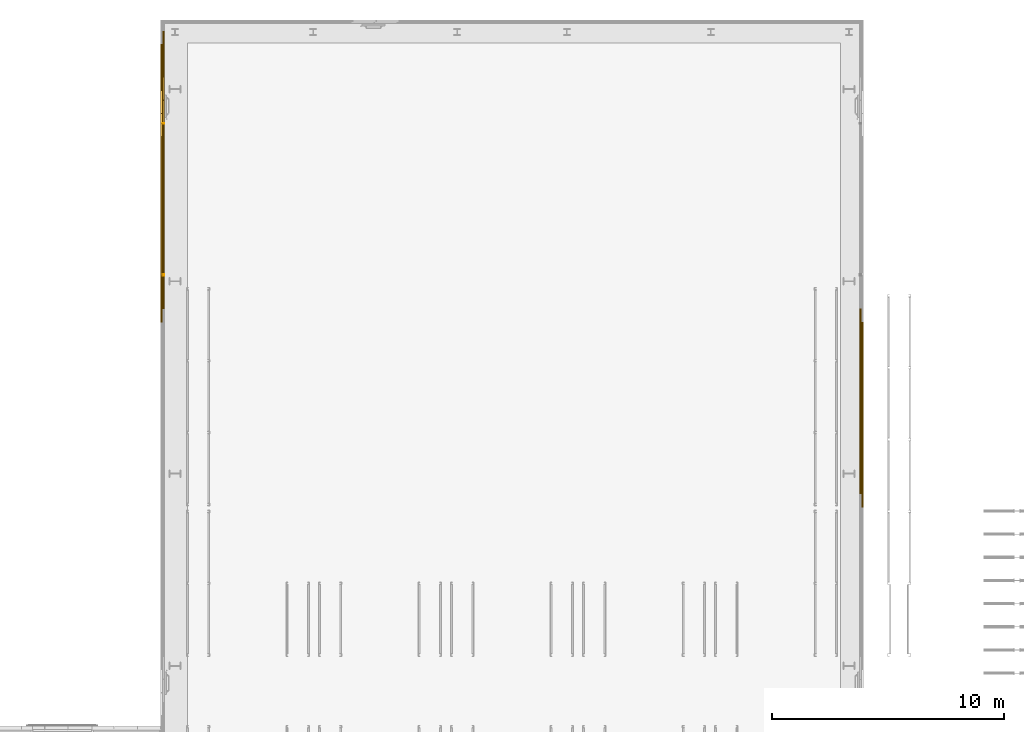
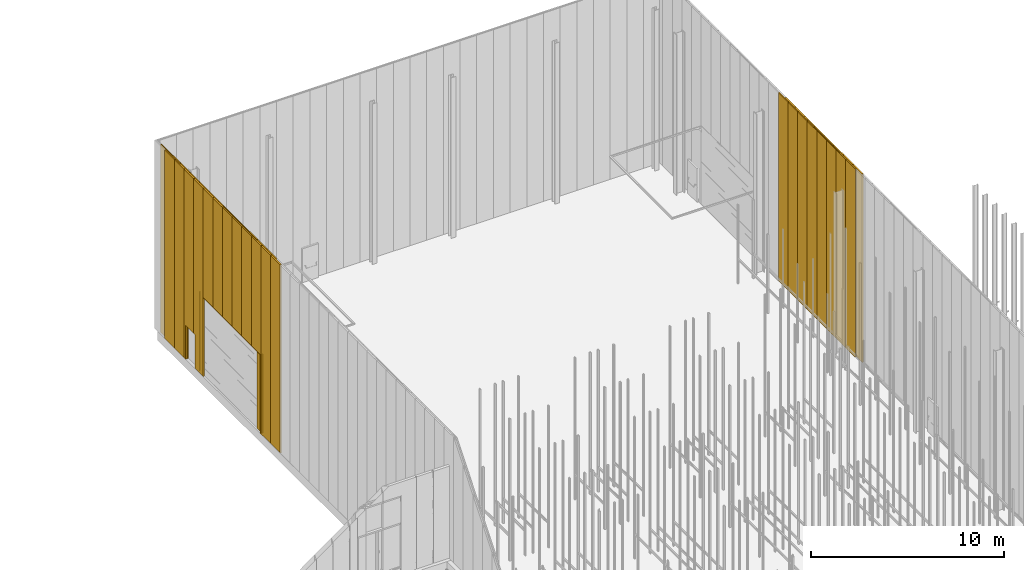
# One storey, part 246 of 302: 42 curtain walls, 6 openings, 4 elements without a shape of their own.
"""IFC2X3 building model written with IfcOpenShell, lengths in metres."""

import ifcopenshell
import ifcopenshell.guid

model = None  # the IFC model being written
_history = None  # IfcOwnerHistory: only IFC2X3 demands one
_inside = {}  # id of a spatial element -> (the spatial element, [elements in it])
_under = {}  # id of a project, library or spatial element -> (it, [spatial elements below it])
_declared = {}  # id of a project -> (the project, [libraries it declares])
_typed = {}  # id of a type object -> (the type object, [elements of that type])
_made_of = {}  # id of a material, layer set ... -> (it, [elements and type objects made of it])


def new_model(schema):
    """Start an empty IFC model of exactly this schema.

    Asked for "IFC4X3", IfcOpenShell would pick the latest addendum, in which some entities
    have other attributes; the version numbers below select the first issue.
    IFC2X3 requires an IfcOwnerHistory on every rooted entity: one is made here for all.
    """
    global model, _history
    if schema == "IFC4X3":
        model = ifcopenshell.file(schema_version=(4, 3, 0, 0))
    else:
        model = ifcopenshell.file(schema=schema)
    _inside.clear()
    _under.clear()
    _declared.clear()
    _typed.clear()
    _made_of.clear()
    _history = None
    if model.schema == "IFC2X3":
        org = make("IfcOrganization", Name="unknown")
        user = make(
            "IfcPersonAndOrganization",
            ThePerson=make("IfcPerson", FamilyName="unknown"),
            TheOrganization=org,
        )
        app = make(
            "IfcApplication",
            ApplicationDeveloper=org,
            Version="unknown",
            ApplicationFullName="unknown",
            ApplicationIdentifier="unknown",
        )
        _history = make(
            "IfcOwnerHistory",
            OwningUser=user,
            OwningApplication=app,
            ChangeAction="ADDED",
            CreationDate=0,
        )
    return model


def make(cls, **values):
    """One entity of the class cls with the attributes given. An attribute that is None is left unset."""
    return model.create_entity(
        cls, **{name: value for name, value in values.items() if value is not None}
    )


def entity(cls, *values):
    """Any entity or typed value of the class cls, its attributes in the order of the schema. None: left unset."""
    e = model.create_entity(cls)
    for i, value in enumerate(values):
        if value is not None:
            e[i] = value
    return e


def rooted(cls, **values):
    """An entity with a GlobalId (a new one), such as an element, a storey or a relation."""
    return make(cls, GlobalId=ifcopenshell.guid.new(), OwnerHistory=_history, **values)


def si_unit(unit_type, name, prefix=None):
    """IfcSIUnit, for example si_unit("LENGTHUNIT", "METRE", prefix="MILLI")."""
    return make("IfcSIUnit", UnitType=unit_type, Prefix=prefix, Name=name)


def converted_unit(unit_type, name, factor, base, dimensions=None, offset=None):
    """IfcConversionBasedUnit, such as the inch: factor (a typed value) times the base unit."""
    return make(
        "IfcConversionBasedUnit"
        if offset is None
        else "IfcConversionBasedUnitWithOffset",
        ConversionOffset=offset,
        Dimensions=None
        if dimensions is None
        else entity("IfcDimensionalExponents", *dimensions),
        UnitType=unit_type,
        Name=name,
        ConversionFactor=make(
            "IfcMeasureWithUnit", ValueComponent=factor, UnitComponent=base
        ),
    )


def derived_unit(unit_type, elements):
    """IfcDerivedUnit: a product of units, each with its exponent."""
    return make(
        "IfcDerivedUnit",
        Elements=[
            make("IfcDerivedUnitElement", Unit=unit, Exponent=power)
            for unit, power in elements
        ],
        UnitType=unit_type,
    )


def assignment(units):
    """IfcUnitAssignment: the units of a project."""
    return None if units is None else make("IfcUnitAssignment", Units=units)


def point(xyz):
    """IfcCartesianPoint."""
    return None if xyz is None else make("IfcCartesianPoint", Coordinates=xyz)


def direction(xyz):
    """IfcDirection."""
    return None if xyz is None else make("IfcDirection", DirectionRatios=xyz)


def frame(location, z_axis=None, x_axis=None):
    """IfcAxis2Placement3D, a coordinate frame: its origin and axes. An axis left out is left unset."""
    return make(
        "IfcAxis2Placement3D",
        Location=point(location),
        Axis=direction(z_axis),
        RefDirection=direction(x_axis),
    )


def frame_2d(location, x_axis=None):
    """IfcAxis2Placement2D, a coordinate frame in the plane: its origin and x axis."""
    return make(
        "IfcAxis2Placement2D", Location=point(location), RefDirection=direction(x_axis)
    )


def origin():
    """The frame at (0, 0, 0) with its axes left unset."""
    return frame((0.0, 0.0, 0.0))


def place(relative_to, where):
    """IfcLocalPlacement: puts the frame where relative to a parent placement (None: the world)."""
    return make(
        "IfcLocalPlacement", PlacementRelTo=relative_to, RelativePlacement=where
    )


def context(
    kind, dimensions, precision=None, world=None, true_north=None, identifier=None
):
    """IfcGeometricRepresentationContext, for example the 3D "Model" context."""
    return make(
        "IfcGeometricRepresentationContext",
        ContextIdentifier=identifier,
        ContextType=kind,
        CoordinateSpaceDimension=dimensions,
        Precision=precision,
        WorldCoordinateSystem=world,
        TrueNorth=true_north,
    )


def subcontext(parent, identifier, kind, view, scale=None):
    """IfcGeometricRepresentationSubContext, for example "Body" below "Model"."""
    return make(
        "IfcGeometricRepresentationSubContext",
        ContextIdentifier=identifier,
        ContextType=kind,
        ParentContext=parent,
        TargetScale=scale,
        TargetView=view,
    )


def project(units=None, contexts=None):
    """IfcProject with its units and contexts."""
    return rooted(
        "IfcProject",
        Name="project",
        RepresentationContexts=contexts,
        UnitsInContext=assignment(units),
    )


def spatial(cls, under=None, at=None, **own):
    """A site, building, storey or space (cls), placed at a placement, below another one or the project."""
    s = rooted(cls, ObjectPlacement=at, **own)
    if under is not None:
        _under.setdefault(under.id(), (under, []))[1].append(s)
    return s


def profile(cls, at=None, kind="AREA", **sizes):
    """A parametric profile (cls). Its sizes go by their IFC names, for example OverallWidth=200.0."""
    return make(cls, ProfileType=kind, Position=at, **sizes)


def rectangle(**sizes):
    """IfcRectangleProfileDef."""
    return profile("IfcRectangleProfileDef", **sizes)


def extrude(swept, where, along, depth):
    """IfcExtrudedAreaSolid: the profile swept, set in the frame where, extruded along a direction by depth."""
    return make(
        "IfcExtrudedAreaSolid",
        SweptArea=swept,
        Position=where,
        ExtrudedDirection=direction(along),
        Depth=depth,
    )


def faces_of(points, faces, orient=None, outer=None):
    """IfcFace entities. A face is a list of loops; a loop is a list of indices into points, from 0.

    orient and outer hold one flag for each loop. By default every Orientation is true, the
    first loop of a face is its IfcFaceOuterBound and the others are IfcFaceBound.
    """
    made = []
    for i, loops in enumerate(faces):
        bounds = []
        for j, loop in enumerate(loops):
            is_outer = j == 0 if outer is None else outer[i][j]
            bounds.append(
                make(
                    "IfcFaceOuterBound" if is_outer else "IfcFaceBound",
                    Bound=make("IfcPolyLoop", Polygon=[points[k] for k in loop]),
                    Orientation=True if orient is None else orient[i][j],
                )
            )
        made.append(make("IfcFace", Bounds=bounds))
    return made


def faceted_brep(points, faces, orient=None, outer=None, voids=None):
    """IfcFacetedBrep: a solid bounded by flat faces; with voids (closed shells), ...WithVoids."""
    shared = [point(p) for p in points]
    hull = make("IfcClosedShell", CfsFaces=faces_of(shared, faces, orient, outer))
    if voids is None:
        return make("IfcFacetedBrep", Outer=hull)
    return make(
        "IfcFacetedBrepWithVoids",
        Outer=hull,
        Voids=[
            make(cls, CfsFaces=faces_of(shared, fs, o, b)) for cls, fs, o, b in voids
        ],
    )


def shape(context_of_items, identifier, shape_type, items):
    """IfcShapeRepresentation: the items that make up one representation, for example the "Body"."""
    return make(
        "IfcShapeRepresentation",
        ContextOfItems=context_of_items,
        RepresentationIdentifier=identifier,
        RepresentationType=shape_type,
        Items=items,
    )


def material(Name=None, Category=None):
    """IfcMaterial."""
    return make("IfcMaterial", Name=Name, Category=Category)


def layer(
    of_material, thickness, ventilated=None, Name=None, Category=None, Priority=None
):
    """IfcMaterialLayer: one layer of a wall or slab, of a material (None: an air gap)."""
    return make(
        "IfcMaterialLayer",
        Material=of_material,
        LayerThickness=thickness,
        IsVentilated=ventilated,
        Name=Name,
        Category=Category,
        Priority=Priority,
    )


def layer_set(layers, Name=None):
    """IfcMaterialLayerSet."""
    return make("IfcMaterialLayerSet", MaterialLayers=layers, LayerSetName=Name)


def layer_usage(for_layer_set, set_direction, sense, offset, extent=None):
    """IfcMaterialLayerSetUsage: how a layer set lies in its element."""
    return make(
        "IfcMaterialLayerSetUsage",
        ForLayerSet=for_layer_set,
        LayerSetDirection=set_direction,
        DirectionSense=sense,
        OffsetFromReferenceLine=offset,
        ReferenceExtent=extent,
    )


def made_of(thing, what):
    """Note that an element or type object is made of a material, layer set ...; save() writes the relation."""
    if what is not None:
        _made_of.setdefault(what.id(), (what, []))[1].append(thing)
    return thing


def type_object(cls, material=None, **own):
    """A type object (cls), such as IfcWallType, which elements share."""
    return made_of(rooted(cls, **own), material)


def element(
    cls,
    number,
    at=None,
    inside=None,
    cuts=None,
    type_object=None,
    material=None,
    context=None,
    identifier="Body",
    shape_type=None,
    held_by="IfcProductDefinitionShape",
    body=None,
    shapes=None,
    **own,
):
    """One element of the class cls, such as IfcWall. Its Tag is "e" and its number.

    at: its placement. inside: the storey or other place that contains it. cuts: it is an
    opening in that element (IfcRelVoidsElement). A single representation is given by context,
    identifier, shape_type and body (its items); several are given by shapes. held_by: the class
    of the entity that holds the representations. save() writes the other relations.
    """
    e = rooted(cls, Tag="e%d" % number, ObjectPlacement=at, **own)
    if body is not None:
        shapes = [shape(context, identifier, shape_type, body)]
    if shapes is not None:
        e.Representation = make(held_by, Representations=shapes)
    if inside is not None:
        _inside.setdefault(inside.id(), (inside, []))[1].append(e)
    if cuts is not None:
        rooted(
            "IfcRelVoidsElement", RelatingBuildingElement=cuts, RelatedOpeningElement=e
        )
    if type_object is not None:
        _typed.setdefault(type_object.id(), (type_object, []))[1].append(e)
    return made_of(e, material)


def aggregate(whole, parts):
    """IfcRelAggregates: a whole, such as a stair, and the parts it consists of."""
    return rooted("IfcRelAggregates", RelatingObject=whole, RelatedObjects=parts)


def save(model, path):
    """Write the relations noted so far, then the file.

    IfcRelAggregates (storeys below a building ...), IfcRelContainedInSpatialStructure (elements
    in a storey), IfcRelDefinesByType, IfcRelAssociatesMaterial and IfcRelDeclares: one each for
    every whole, place, type object, material and project.
    """
    for whole, parts in _under.values():
        aggregate(whole, parts)
    for where, things in _inside.values():
        rooted(
            "IfcRelContainedInSpatialStructure",
            RelatedElements=things,
            RelatingStructure=where,
        )
    for kind, things in _typed.values():
        rooted("IfcRelDefinesByType", RelatedObjects=things, RelatingType=kind)
    for what, things in _made_of.values():
        rooted("IfcRelAssociatesMaterial", RelatedObjects=things, RelatingMaterial=what)
    for by, libraries in _declared.values():
        rooted("IfcRelDeclares", RelatingContext=by, RelatedDefinitions=libraries)
    model.write(path)


model = new_model("IFC2X3")

# Units and contexts
model_context = context("Model", 3, precision=1e-05, world=origin(), true_north=direction((6.12303176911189e-17, 1.0)))
body_context = subcontext(model_context, "Body", "Model", "MODEL_VIEW")
ifc_project = project(units=[si_unit("LENGTHUNIT", "METRE"), si_unit("AREAUNIT", "SQUARE_METRE"), si_unit("VOLUMEUNIT", "CUBIC_METRE"), converted_unit("PLANEANGLEUNIT", "DEGREE", entity("IfcRatioMeasure", 0.0174532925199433), si_unit("PLANEANGLEUNIT", "RADIAN"), dimensions=[0, 0, 0, 0, 0, 0, 0]), si_unit("MASSUNIT", "GRAM", prefix="KILO"), derived_unit("MASSDENSITYUNIT", [(si_unit("MASSUNIT", "GRAM", prefix="KILO"), 1), (si_unit("LENGTHUNIT", "METRE"), -3)]), derived_unit("MOMENTOFINERTIAUNIT", [(si_unit("LENGTHUNIT", "METRE"), 4)]), si_unit("TIMEUNIT", "SECOND"), si_unit("FREQUENCYUNIT", "HERTZ"), si_unit("THERMODYNAMICTEMPERATUREUNIT", "DEGREE_CELSIUS"), derived_unit("THERMALTRANSMITTANCEUNIT", [(si_unit("MASSUNIT", "GRAM", prefix="KILO"), 1), (si_unit("THERMODYNAMICTEMPERATUREUNIT", "KELVIN"), -1), (si_unit("TIMEUNIT", "SECOND"), -3)]), derived_unit("VOLUMETRICFLOWRATEUNIT", [(si_unit("LENGTHUNIT", "METRE"), 3), (si_unit("TIMEUNIT", "SECOND"), -1)]), si_unit("ELECTRICCURRENTUNIT", "AMPERE"), si_unit("ELECTRICVOLTAGEUNIT", "VOLT"), si_unit("POWERUNIT", "WATT"), si_unit("FORCEUNIT", "NEWTON", prefix="KILO"), si_unit("ILLUMINANCEUNIT", "LUX"), si_unit("LUMINOUSFLUXUNIT", "LUMEN"), si_unit("LUMINOUSINTENSITYUNIT", "CANDELA"), derived_unit("USERDEFINED", [(si_unit("MASSUNIT", "GRAM", prefix="KILO"), -1), (si_unit("LENGTHUNIT", "METRE"), -2), (si_unit("TIMEUNIT", "SECOND"), 3), (si_unit("LUMINOUSFLUXUNIT", "LUMEN"), 1)]), derived_unit("LINEARVELOCITYUNIT", [(si_unit("LENGTHUNIT", "METRE"), 1), (si_unit("TIMEUNIT", "SECOND"), -1)]), si_unit("PRESSUREUNIT", "PASCAL"), derived_unit("USERDEFINED", [(si_unit("LENGTHUNIT", "METRE"), -2), (si_unit("MASSUNIT", "GRAM", prefix="KILO"), 1), (si_unit("TIMEUNIT", "SECOND"), -2)]), derived_unit("LINEARFORCEUNIT", [(si_unit("MASSUNIT", "GRAM", prefix="KILO"), 1), (si_unit("LENGTHUNIT", "METRE"), 1), (si_unit("TIMEUNIT", "SECOND"), -2), (si_unit("LENGTHUNIT", "METRE"), -1)]), derived_unit("PLANARFORCEUNIT", [(si_unit("MASSUNIT", "GRAM", prefix="KILO"), 1), (si_unit("LENGTHUNIT", "METRE"), 1), (si_unit("TIMEUNIT", "SECOND"), -2), (si_unit("LENGTHUNIT", "METRE"), -2)])], contexts=[model_context])

# Site, building, storey
site_placement = place(None, origin())
site = spatial("IfcSite", under=ifc_project, at=site_placement, Name="Default", CompositionType="ELEMENT")
building_placement = place(site_placement, origin())
building = spatial("IfcBuilding", under=site, at=building_placement, CompositionType="ELEMENT")
storey_placement = place(building_placement, frame((0.0, 0.0, -1.3)))
storey = spatial("IfcBuildingStorey", under=building, at=storey_placement, Name="00_EG", CompositionType="ELEMENT", Elevation=-1.3)

# Curtain walls, openings
curtain_wall_type_1 = type_object("IfcCurtainWallType", PredefinedType="NOTDEFINED")
curtain_wall_1_placement = place(storey_placement, frame((0.0, 0.0, 1.3)))
curtain_wall_1 = element("IfcCurtainWall", 1, at=curtain_wall_1_placement, inside=storey, type_object=curtain_wall_type_1)
ifc_material_1 = material(Name="Prepainted_Steel-ArcelorMittal_Construction_HAIRULTRA-35-CORAL-4309-[RAL_3000]")
ifc_layer_1 = layer(ifc_material_1, 0.01)
ifc_material_2 = material(Name="ArcelorMittal-MineralWool")
ifc_layer_2 = layer(ifc_material_2, 0.06)
ifc_layer_3 = layer(ifc_material_1, 0.01)
ifc_layer_set_1 = layer_set([ifc_layer_1, ifc_layer_2, ifc_layer_3], Name="Fassade:Sandwichpaneele Gebäude B 80mm")
ifc_layer_usage_1 = layer_usage(ifc_layer_set_1, "AXIS2", "NEGATIVE", 0.04)
curtain_wall_type_2 = type_object("IfcCurtainWallType", Name="Basiswand:Sandwichpaneele d = 8cm aussen", PredefinedType="NOTDEFINED", material=ifc_layer_set_1)
curtain_wall_2_placement = place(storey_placement, frame((-207.570111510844, 75.1680889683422, 1.27), z_axis=(0.0, 0.0, 1.0), x_axis=(0.0, -1.0, 0.0)))
curtain_wall_2 = element("IfcCurtainWall", 2, at=curtain_wall_2_placement, type_object=curtain_wall_type_2, material=ifc_layer_usage_1, Name="Basiswand:Sandwichpaneele d = 8cm aussen", ObjectType="Basiswand:Sandwichpaneele d = 8cm aussen", context=body_context, shape_type="SweptSolid", body=[
    extrude(rectangle(XDim=0.999999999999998, YDim=0.0799999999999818, at=frame_2d((0.499999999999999, 0.0), x_axis=(-1.0, 0.0))), origin(), (0.0, 0.0, 1.0), 11.9314),
])
ifc_layer_usage_2 = layer_usage(ifc_layer_set_1, "AXIS2", "NEGATIVE", 0.04)
curtain_wall_3_placement = place(storey_placement, frame((-207.570111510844, 74.1680889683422, 1.27), z_axis=(0.0, 0.0, 1.0), x_axis=(0.0, -1.0, 0.0)))
curtain_wall_3 = element("IfcCurtainWall", 3, at=curtain_wall_3_placement, type_object=curtain_wall_type_2, material=ifc_layer_usage_2, Name="Basiswand:Sandwichpaneele d = 8cm aussen", ObjectType="Basiswand:Sandwichpaneele d = 8cm aussen", context=body_context, shape_type="SweptSolid", body=[
    extrude(rectangle(XDim=1.00000000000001, YDim=0.0799999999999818, at=frame_2d((0.500000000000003, 0.0), x_axis=(-1.0, 0.0))), origin(), (0.0, 0.0, 1.0), 11.9314),
])
ifc_layer_usage_3 = layer_usage(ifc_layer_set_1, "AXIS2", "NEGATIVE", 0.04)
curtain_wall_4_placement = place(storey_placement, frame((-207.570111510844, 73.1680889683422, 1.27), z_axis=(0.0, 0.0, 1.0), x_axis=(0.0, -1.0, 0.0)))
curtain_wall_4 = element("IfcCurtainWall", 4, at=curtain_wall_4_placement, type_object=curtain_wall_type_2, material=ifc_layer_usage_3, Name="Basiswand:Sandwichpaneele d = 8cm aussen", ObjectType="Basiswand:Sandwichpaneele d = 8cm aussen", context=body_context, shape_type="SweptSolid", body=[
    extrude(rectangle(XDim=0.999999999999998, YDim=0.0799999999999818, at=frame_2d((0.499999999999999, 0.0), x_axis=(-1.0, 0.0))), origin(), (0.0, 0.0, 1.0), 11.9314),
])
opening_1_placement = place(curtain_wall_4_placement, origin())
opening_1 = element("IfcOpeningElement", 5, at=opening_1_placement, cuts=curtain_wall_4, Name="Basiswand:Sandwichpaneele d = 8cm aussen", ObjectType="Opening", context=body_context, shape_type="SweptSolid", body=[
    extrude(rectangle(XDim=2.16999999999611, YDim=0.980000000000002, at=frame_2d((-3.03090885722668e-14, 4.44089209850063e-16), x_axis=(0.0, 1.0))), frame((0.679999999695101, -0.0400000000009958, 1.05499999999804), z_axis=(0.0, 1.0, 0.0), x_axis=(1.0, 0.0, 0.0)), (0.0, 0.0, 1.0), 0.169999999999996),
])
ifc_layer_usage_4 = layer_usage(ifc_layer_set_1, "AXIS2", "NEGATIVE", 0.04)
curtain_wall_5_placement = place(storey_placement, frame((-207.570111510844, 72.1680889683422, 1.27), z_axis=(0.0, 0.0, 1.0), x_axis=(0.0, -1.0, 0.0)))
curtain_wall_5 = element("IfcCurtainWall", 6, at=curtain_wall_5_placement, type_object=curtain_wall_type_2, material=ifc_layer_usage_4, Name="Basiswand:Sandwichpaneele d = 8cm aussen", ObjectType="Basiswand:Sandwichpaneele d = 8cm aussen", context=body_context, shape_type="SweptSolid", body=[
    extrude(rectangle(XDim=0.999999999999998, YDim=0.0799999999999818, at=frame_2d((0.499999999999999, 0.0), x_axis=(-1.0, 0.0))), origin(), (0.0, 0.0, 1.0), 11.9314),
])
opening_2_placement = place(curtain_wall_5_placement, origin())
opening_2 = element("IfcOpeningElement", 7, at=opening_2_placement, cuts=curtain_wall_5, Name="Basiswand:Sandwichpaneele d = 8cm aussen", ObjectType="Opening", context=body_context, shape_type="SweptSolid", body=[
    extrude(rectangle(XDim=2.16999999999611, YDim=0.980000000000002, at=frame_2d((-3.03090885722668e-14, 4.44089209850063e-16), x_axis=(0.0, 1.0))), frame((-0.320000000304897, -0.0400000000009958, 1.05499999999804), z_axis=(0.0, 1.0, 0.0), x_axis=(1.0, 0.0, 0.0)), (0.0, 0.0, 1.0), 0.169999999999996),
])
ifc_layer_usage_5 = layer_usage(ifc_layer_set_1, "AXIS2", "NEGATIVE", 0.04)
curtain_wall_6_placement = place(storey_placement, frame((-207.570111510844, 71.7580889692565, 1.27), z_axis=(0.0, 0.0, 1.0), x_axis=(0.0, -1.0, 0.0)))
curtain_wall_6 = element("IfcCurtainWall", 8, at=curtain_wall_6_placement, type_object=curtain_wall_type_2, material=ifc_layer_usage_5, Name="Basiswand:Sandwichpaneele d = 8cm aussen", ObjectType="Basiswand:Sandwichpaneele d = 8cm aussen", context=body_context, shape_type="SweptSolid", body=[
    extrude(rectangle(XDim=6.5900000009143, YDim=0.0799999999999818, at=frame_2d((3.29500000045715, 0.0), x_axis=(-1.0, 0.0))), origin(), (0.0, 0.0, 1.0), 5.0),
])
opening_3_placement = place(curtain_wall_6_placement, frame((6.53000000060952, -0.110000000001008, -0.180000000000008)))
opening_3 = element("IfcOpeningElement", 9, at=opening_3_placement, cuts=curtain_wall_6, Name="Basiswand:Sandwichpaneele d = 8cm aussen", ObjectType="Opening", context=body_context, shape_type="Brep", body=[
    faceted_brep([(0.0, 0.22000000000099, 5.17999999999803), (0.0, 0.22000000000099, 0.0), (-6.49999999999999, 0.22000000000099, 0.0), (-6.49999999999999, 0.22000000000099, 5.17999999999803), (0.0, 0.160000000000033, 5.17999999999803), (-6.49999999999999, 0.160000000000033, 5.17999999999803), (-6.49999999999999, 0.160000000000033, 0.0), (0.0, 0.160000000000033, 0.0), (-6.46999999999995, 0.160000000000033, 5.14999999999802), (-0.0299999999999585, 0.160000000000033, 5.14999999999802), (-0.0299999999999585, 0.160000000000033, 0.099999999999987), (-6.46999999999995, 0.160000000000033, 0.099999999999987), (-0.0299999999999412, 0.0, 5.14999999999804), (-6.46999999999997, 0.0, 5.14999999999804), (-6.46999999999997, 0.0, 0.0999999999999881), (-0.0299999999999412, 0.0, 0.0999999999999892)], [[[0, 1, 2, 3]], [[4, 5, 6, 7], [8, 9, 10, 11]], [[0, 3, 5, 4]], [[3, 2, 6, 5]], [[2, 1, 7, 6]], [[1, 0, 4, 7]], [[12, 13, 14, 15]], [[13, 12, 9, 8]], [[14, 13, 8, 11]], [[15, 14, 11, 10]], [[12, 15, 10, 9]]]),
])
ifc_layer_usage_6 = layer_usage(ifc_layer_set_1, "AXIS2", "NEGATIVE", 0.04)
curtain_wall_7_placement = place(storey_placement, frame((-207.570111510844, 65.1680889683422, 1.27), z_axis=(0.0, 0.0, 1.0), x_axis=(0.0, -1.0, 0.0)))
curtain_wall_7 = element("IfcCurtainWall", 10, at=curtain_wall_7_placement, type_object=curtain_wall_type_2, material=ifc_layer_usage_6, Name="Basiswand:Sandwichpaneele d = 8cm aussen", ObjectType="Basiswand:Sandwichpaneele d = 8cm aussen", context=body_context, shape_type="SweptSolid", body=[
    extrude(rectangle(XDim=0.999999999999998, YDim=0.0799999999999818, at=frame_2d((0.499999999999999, 0.0), x_axis=(-1.0, 0.0))), origin(), (0.0, 0.0, 1.0), 11.9314),
])
ifc_layer_usage_7 = layer_usage(ifc_layer_set_1, "AXIS2", "NEGATIVE", 0.04)
curtain_wall_8_placement = place(storey_placement, frame((-207.570111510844, 64.1680889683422, 1.27), z_axis=(0.0, 0.0, 1.0), x_axis=(0.0, -1.0, 0.0)))
curtain_wall_8 = element("IfcCurtainWall", 11, at=curtain_wall_8_placement, type_object=curtain_wall_type_2, material=ifc_layer_usage_7, Name="Basiswand:Sandwichpaneele d = 8cm aussen", ObjectType="Basiswand:Sandwichpaneele d = 8cm aussen", context=body_context, shape_type="SweptSolid", body=[
    extrude(rectangle(XDim=0.999999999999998, YDim=0.0799999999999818, at=frame_2d((0.499999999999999, 0.0), x_axis=(-1.0, 0.0))), origin(), (0.0, 0.0, 1.0), 11.9314),
])
ifc_layer_usage_8 = layer_usage(ifc_layer_set_1, "AXIS2", "NEGATIVE", 0.04)
curtain_wall_9_placement = place(storey_placement, frame((-207.570111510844, 71.1680889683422, 6.27), z_axis=(0.0, 0.0, 1.0), x_axis=(0.0, -1.0, 0.0)))
curtain_wall_9 = element("IfcCurtainWall", 12, at=curtain_wall_9_placement, type_object=curtain_wall_type_2, material=ifc_layer_usage_8, Name="Basiswand:Sandwichpaneele d = 8cm aussen", ObjectType="Basiswand:Sandwichpaneele d = 8cm aussen", context=body_context, shape_type="SweptSolid", body=[
    extrude(rectangle(XDim=0.999999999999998, YDim=0.0799999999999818, at=frame_2d((0.499999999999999, 0.0), x_axis=(-1.0, 0.0))), origin(), (0.0, 0.0, 1.0), 6.9314),
])
ifc_layer_usage_9 = layer_usage(ifc_layer_set_1, "AXIS2", "NEGATIVE", 0.04)
curtain_wall_10_placement = place(storey_placement, frame((-207.570111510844, 70.1680889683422, 6.27), z_axis=(0.0, 0.0, 1.0), x_axis=(0.0, -1.0, 0.0)))
curtain_wall_10 = element("IfcCurtainWall", 13, at=curtain_wall_10_placement, type_object=curtain_wall_type_2, material=ifc_layer_usage_9, Name="Basiswand:Sandwichpaneele d = 8cm aussen", ObjectType="Basiswand:Sandwichpaneele d = 8cm aussen", context=body_context, shape_type="SweptSolid", body=[
    extrude(rectangle(XDim=1.00000000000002, YDim=0.0799999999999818, at=frame_2d((0.500000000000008, 0.0), x_axis=(-1.0, 0.0))), origin(), (0.0, 0.0, 1.0), 6.9314),
])
ifc_layer_usage_10 = layer_usage(ifc_layer_set_1, "AXIS2", "NEGATIVE", 0.04)
curtain_wall_11_placement = place(storey_placement, frame((-207.570111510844, 69.1680889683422, 6.27), z_axis=(0.0, 0.0, 1.0), x_axis=(0.0, -1.0, 0.0)))
curtain_wall_11 = element("IfcCurtainWall", 14, at=curtain_wall_11_placement, type_object=curtain_wall_type_2, material=ifc_layer_usage_10, Name="Basiswand:Sandwichpaneele d = 8cm aussen", ObjectType="Basiswand:Sandwichpaneele d = 8cm aussen", context=body_context, shape_type="SweptSolid", body=[
    extrude(rectangle(XDim=0.999999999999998, YDim=0.0799999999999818, at=frame_2d((0.499999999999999, 0.0), x_axis=(-1.0, 0.0))), origin(), (0.0, 0.0, 1.0), 6.9314),
])
ifc_layer_usage_11 = layer_usage(ifc_layer_set_1, "AXIS2", "NEGATIVE", 0.04)
curtain_wall_12_placement = place(storey_placement, frame((-207.570111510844, 68.1680889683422, 6.27), z_axis=(0.0, 0.0, 1.0), x_axis=(0.0, -1.0, 0.0)))
curtain_wall_12 = element("IfcCurtainWall", 15, at=curtain_wall_12_placement, type_object=curtain_wall_type_2, material=ifc_layer_usage_11, Name="Basiswand:Sandwichpaneele d = 8cm aussen", ObjectType="Basiswand:Sandwichpaneele d = 8cm aussen", context=body_context, shape_type="SweptSolid", body=[
    extrude(rectangle(XDim=1.00000000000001, YDim=0.0799999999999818, at=frame_2d((0.500000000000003, 0.0), x_axis=(-1.0, 0.0))), origin(), (0.0, 0.0, 1.0), 6.9314),
])
ifc_layer_usage_12 = layer_usage(ifc_layer_set_1, "AXIS2", "NEGATIVE", 0.04)
curtain_wall_13_placement = place(storey_placement, frame((-207.570111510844, 67.1680889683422, 6.27), z_axis=(0.0, 0.0, 1.0), x_axis=(0.0, -1.0, 0.0)))
curtain_wall_13 = element("IfcCurtainWall", 16, at=curtain_wall_13_placement, type_object=curtain_wall_type_2, material=ifc_layer_usage_12, Name="Basiswand:Sandwichpaneele d = 8cm aussen", ObjectType="Basiswand:Sandwichpaneele d = 8cm aussen", context=body_context, shape_type="SweptSolid", body=[
    extrude(rectangle(XDim=0.999999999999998, YDim=0.0799999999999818, at=frame_2d((0.499999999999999, 0.0), x_axis=(-1.0, 0.0))), origin(), (0.0, 0.0, 1.0), 6.9314),
])
ifc_layer_usage_13 = layer_usage(ifc_layer_set_1, "AXIS2", "NEGATIVE", 0.04)
curtain_wall_14_placement = place(storey_placement, frame((-207.570111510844, 66.1680889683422, 6.27), z_axis=(0.0, 0.0, 1.0), x_axis=(0.0, -1.0, 0.0)))
curtain_wall_14 = element("IfcCurtainWall", 17, at=curtain_wall_14_placement, type_object=curtain_wall_type_2, material=ifc_layer_usage_13, Name="Basiswand:Sandwichpaneele d = 8cm aussen", ObjectType="Basiswand:Sandwichpaneele d = 8cm aussen", context=body_context, shape_type="SweptSolid", body=[
    extrude(rectangle(XDim=1.00000000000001, YDim=0.0799999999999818, at=frame_2d((0.500000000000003, 0.0), x_axis=(-1.0, 0.0))), origin(), (0.0, 0.0, 1.0), 6.9314),
])
aggregate(curtain_wall_1, [curtain_wall_2, curtain_wall_3, curtain_wall_4, opening_1, curtain_wall_5, opening_2, curtain_wall_6, opening_3, curtain_wall_7, curtain_wall_8, curtain_wall_9, curtain_wall_10, curtain_wall_11, curtain_wall_12, curtain_wall_13, curtain_wall_14])

# Curtain walls
curtain_wall_15_placement = place(storey_placement, frame((0.0, 0.0, 1.3)))
curtain_wall_15 = element("IfcCurtainWall", 18, at=curtain_wall_15_placement, inside=storey, type_object=curtain_wall_type_1)
ifc_layer_usage_14 = layer_usage(ifc_layer_set_1, "AXIS2", "POSITIVE", -0.04)
curtain_wall_16_placement = place(storey_placement, frame((-177.310111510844, 63.1680889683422, 1.27), z_axis=(0.0, 0.0, 1.0), x_axis=(0.0, -1.0, 0.0)))
curtain_wall_16 = element("IfcCurtainWall", 19, at=curtain_wall_16_placement, type_object=curtain_wall_type_2, material=ifc_layer_usage_14, Name="Basiswand:Sandwichpaneele d = 8cm aussen", ObjectType="Basiswand:Sandwichpaneele d = 8cm aussen", context=body_context, shape_type="SweptSolid", body=[
    extrude(rectangle(XDim=1.00000000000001, YDim=0.0799999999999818, at=frame_2d((0.500000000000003, 0.0), x_axis=(-1.0, 0.0))), origin(), (0.0, 0.0, 1.0), 11.9314),
])
ifc_layer_usage_15 = layer_usage(ifc_layer_set_1, "AXIS2", "POSITIVE", -0.04)
curtain_wall_17_placement = place(storey_placement, frame((-177.310111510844, 62.1680889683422, 1.27), z_axis=(0.0, 0.0, 1.0), x_axis=(0.0, -1.0, 0.0)))
curtain_wall_17 = element("IfcCurtainWall", 20, at=curtain_wall_17_placement, type_object=curtain_wall_type_2, material=ifc_layer_usage_15, Name="Basiswand:Sandwichpaneele d = 8cm aussen", ObjectType="Basiswand:Sandwichpaneele d = 8cm aussen", context=body_context, shape_type="SweptSolid", body=[
    extrude(rectangle(XDim=0.999999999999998, YDim=0.0799999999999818, at=frame_2d((0.499999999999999, 0.0), x_axis=(-1.0, 0.0))), origin(), (0.0, 0.0, 1.0), 11.9314),
])
ifc_layer_usage_16 = layer_usage(ifc_layer_set_1, "AXIS2", "POSITIVE", -0.04)
curtain_wall_18_placement = place(storey_placement, frame((-177.310111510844, 61.1680889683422, 1.27), z_axis=(0.0, 0.0, 1.0), x_axis=(0.0, -1.0, 0.0)))
curtain_wall_18 = element("IfcCurtainWall", 21, at=curtain_wall_18_placement, type_object=curtain_wall_type_2, material=ifc_layer_usage_16, Name="Basiswand:Sandwichpaneele d = 8cm aussen", ObjectType="Basiswand:Sandwichpaneele d = 8cm aussen", context=body_context, shape_type="SweptSolid", body=[
    extrude(rectangle(XDim=1.00000000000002, YDim=0.0799999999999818, at=frame_2d((0.500000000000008, 0.0), x_axis=(-1.0, 0.0))), origin(), (0.0, 0.0, 1.0), 11.9314),
])
ifc_layer_usage_17 = layer_usage(ifc_layer_set_1, "AXIS2", "POSITIVE", -0.04)
curtain_wall_19_placement = place(storey_placement, frame((-177.310111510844, 60.1680889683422, 1.27), z_axis=(0.0, 0.0, 1.0), x_axis=(0.0, -1.0, 0.0)))
curtain_wall_19 = element("IfcCurtainWall", 22, at=curtain_wall_19_placement, type_object=curtain_wall_type_2, material=ifc_layer_usage_17, Name="Basiswand:Sandwichpaneele d = 8cm aussen", ObjectType="Basiswand:Sandwichpaneele d = 8cm aussen", context=body_context, shape_type="SweptSolid", body=[
    extrude(rectangle(XDim=0.999999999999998, YDim=0.0799999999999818, at=frame_2d((0.499999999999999, 0.0), x_axis=(-1.0, 0.0))), origin(), (0.0, 0.0, 1.0), 11.9314),
])
ifc_layer_usage_18 = layer_usage(ifc_layer_set_1, "AXIS2", "POSITIVE", -0.04)
curtain_wall_20_placement = place(storey_placement, frame((-177.310111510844, 59.1680889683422, 1.27), z_axis=(0.0, 0.0, 1.0), x_axis=(0.0, -1.0, 0.0)))
curtain_wall_20 = element("IfcCurtainWall", 23, at=curtain_wall_20_placement, type_object=curtain_wall_type_2, material=ifc_layer_usage_18, Name="Basiswand:Sandwichpaneele d = 8cm aussen", ObjectType="Basiswand:Sandwichpaneele d = 8cm aussen", context=body_context, shape_type="SweptSolid", body=[
    extrude(rectangle(XDim=0.999999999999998, YDim=0.0799999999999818, at=frame_2d((0.499999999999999, 0.0), x_axis=(-1.0, 0.0))), origin(), (0.0, 0.0, 1.0), 11.9314),
])
ifc_layer_usage_19 = layer_usage(ifc_layer_set_1, "AXIS2", "POSITIVE", -0.04)
curtain_wall_21_placement = place(storey_placement, frame((-177.310111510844, 58.1680889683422, 1.27), z_axis=(0.0, 0.0, 1.0), x_axis=(0.0, -1.0, 0.0)))
curtain_wall_21 = element("IfcCurtainWall", 24, at=curtain_wall_21_placement, type_object=curtain_wall_type_2, material=ifc_layer_usage_19, Name="Basiswand:Sandwichpaneele d = 8cm aussen", ObjectType="Basiswand:Sandwichpaneele d = 8cm aussen", context=body_context, shape_type="SweptSolid", body=[
    extrude(rectangle(XDim=1.00000000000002, YDim=0.0799999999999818, at=frame_2d((0.500000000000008, 0.0), x_axis=(-1.0, 0.0))), origin(), (0.0, 0.0, 1.0), 11.9314),
])
ifc_layer_usage_20 = layer_usage(ifc_layer_set_1, "AXIS2", "POSITIVE", -0.04)
curtain_wall_22_placement = place(storey_placement, frame((-177.310111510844, 57.1680889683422, 1.27), z_axis=(0.0, 0.0, 1.0), x_axis=(0.0, -1.0, 0.0)))
curtain_wall_22 = element("IfcCurtainWall", 25, at=curtain_wall_22_placement, type_object=curtain_wall_type_2, material=ifc_layer_usage_20, Name="Basiswand:Sandwichpaneele d = 8cm aussen", ObjectType="Basiswand:Sandwichpaneele d = 8cm aussen", context=body_context, shape_type="SweptSolid", body=[
    extrude(rectangle(XDim=0.999999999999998, YDim=0.0799999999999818, at=frame_2d((0.499999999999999, 0.0), x_axis=(-1.0, 0.0))), origin(), (0.0, 0.0, 1.0), 11.9314),
])
ifc_layer_usage_21 = layer_usage(ifc_layer_set_1, "AXIS2", "POSITIVE", -0.04)
curtain_wall_23_placement = place(storey_placement, frame((-177.310111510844, 56.1680889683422, 1.27), z_axis=(0.0, 0.0, 1.0), x_axis=(0.0, -1.0, 0.0)))
curtain_wall_23 = element("IfcCurtainWall", 26, at=curtain_wall_23_placement, type_object=curtain_wall_type_2, material=ifc_layer_usage_21, Name="Basiswand:Sandwichpaneele d = 8cm aussen", ObjectType="Basiswand:Sandwichpaneele d = 8cm aussen", context=body_context, shape_type="SweptSolid", body=[
    extrude(rectangle(XDim=0.999999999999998, YDim=0.0799999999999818, at=frame_2d((0.499999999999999, 0.0), x_axis=(-1.0, 0.0))), origin(), (0.0, 0.0, 1.0), 11.9314),
])
aggregate(curtain_wall_15, [curtain_wall_16, curtain_wall_17, curtain_wall_18, curtain_wall_19, curtain_wall_20, curtain_wall_21, curtain_wall_22, curtain_wall_23])

# Curtain walls, openings
curtain_wall_type_3 = type_object("IfcCurtainWallType", PredefinedType="NOTDEFINED")
curtain_wall_24_placement = place(storey_placement, frame((0.0, 0.0, 1.3)))
curtain_wall_24 = element("IfcCurtainWall", 27, at=curtain_wall_24_placement, inside=storey, type_object=curtain_wall_type_3)
ifc_layer_4 = layer(ifc_material_1, 0.01)
ifc_layer_5 = layer(ifc_material_2, 0.04)
ifc_layer_6 = layer(ifc_material_1, 0.01)
ifc_layer_set_2 = layer_set([ifc_layer_4, ifc_layer_5, ifc_layer_6], Name="Fassade:Sandwichpaneele Gebäude B 60mm")
ifc_layer_usage_22 = layer_usage(ifc_layer_set_2, "AXIS2", "NEGATIVE", 0.03)
curtain_wall_type_4 = type_object("IfcCurtainWallType", Name="Basiswand:Sandwichpaneele d = 6cm aussen", PredefinedType="NOTDEFINED", material=ifc_layer_set_2)
curtain_wall_25_placement = place(storey_placement, frame((-207.490111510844, 63.7480889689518, 1.27), z_axis=(0.0, 0.0, 1.0), x_axis=(0.0, 1.0, 0.0)))
curtain_wall_25 = element("IfcCurtainWall", 28, at=curtain_wall_25_placement, type_object=curtain_wall_type_4, material=ifc_layer_usage_22, Name="Basiswand:Sandwichpaneele d = 6cm aussen", ObjectType="Basiswand:Sandwichpaneele d = 6cm aussen", context=body_context, shape_type="SweptSolid", body=[
    extrude(rectangle(XDim=0.999999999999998, YDim=0.0599999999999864, at=frame_2d((0.499999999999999, 0.0), x_axis=(-1.0, 0.0))), origin(), (0.0, 0.0, 1.0), 11.9314),
])
ifc_layer_usage_23 = layer_usage(ifc_layer_set_2, "AXIS2", "NEGATIVE", 0.03)
curtain_wall_26_placement = place(storey_placement, frame((-207.490111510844, 64.7480889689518, 1.27), z_axis=(0.0, 0.0, 1.0), x_axis=(0.0, 1.0, 0.0)))
curtain_wall_26 = element("IfcCurtainWall", 29, at=curtain_wall_26_placement, type_object=curtain_wall_type_4, material=ifc_layer_usage_23, Name="Basiswand:Sandwichpaneele d = 6cm aussen", ObjectType="Basiswand:Sandwichpaneele d = 6cm aussen", context=body_context, shape_type="SweptSolid", body=[
    extrude(rectangle(XDim=0.999999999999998, YDim=0.0599999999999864, at=frame_2d((0.499999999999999, 0.0), x_axis=(-1.0, 0.0))), origin(), (0.0, 0.0, 1.0), 11.9314),
])
ifc_layer_usage_24 = layer_usage(ifc_layer_set_2, "AXIS2", "NEGATIVE", 0.03)
curtain_wall_27_placement = place(storey_placement, frame((-207.490111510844, 65.178088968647, 1.27), z_axis=(0.0, 0.0, 1.0), x_axis=(0.0, 1.0, 0.0)))
curtain_wall_27 = element("IfcCurtainWall", 30, at=curtain_wall_27_placement, type_object=curtain_wall_type_4, material=ifc_layer_usage_24, Name="Basiswand:Sandwichpaneele d = 6cm aussen", ObjectType="Basiswand:Sandwichpaneele d = 6cm aussen", context=body_context, shape_type="SweptSolid", body=[
    extrude(rectangle(XDim=6.57000000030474, YDim=0.0599999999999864, at=frame_2d((3.28500000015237, 0.0), x_axis=(-1.0, 0.0))), origin(), (0.0, 0.0, 1.0), 5.0),
])
opening_4_placement = place(curtain_wall_27_placement, frame((0.0499999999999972, 0.190000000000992, -0.180000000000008), z_axis=(0.0, 0.0, 1.0), x_axis=(0.0, -1.0, 0.0)))
element("IfcOpeningElement", 31, at=opening_4_placement, cuts=curtain_wall_27, Name="Basiswand:Sandwichpaneele d = 6cm aussen", ObjectType="Opening", context=body_context, shape_type="Brep", body=[
    faceted_brep([(0.22000000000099, 0.0, 5.17999999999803), (0.22000000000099, 0.0, 0.0), (0.22000000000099, 6.49999999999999, 0.0), (0.22000000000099, 6.49999999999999, 5.17999999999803), (0.160000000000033, 0.0, 5.17999999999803), (0.160000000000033, 6.49999999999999, 5.17999999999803), (0.160000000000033, 6.49999999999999, 0.0), (0.160000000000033, 0.0, 0.0), (0.160000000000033, 6.46999999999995, 5.14999999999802), (0.160000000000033, 0.0299999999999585, 5.14999999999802), (0.160000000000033, 0.0299999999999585, 0.099999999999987), (0.160000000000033, 6.46999999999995, 0.099999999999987), (0.0, 0.0299999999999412, 5.14999999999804), (0.0, 6.46999999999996, 5.14999999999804), (0.0, 6.46999999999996, 0.0999999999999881), (0.0, 0.0299999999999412, 0.0999999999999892)], [[[0, 1, 2, 3]], [[4, 5, 6, 7], [8, 9, 10, 11]], [[0, 3, 5, 4]], [[3, 2, 6, 5]], [[2, 1, 7, 6]], [[1, 0, 4, 7]], [[12, 13, 14, 15]], [[13, 12, 9, 8]], [[14, 13, 8, 11]], [[15, 14, 11, 10]], [[12, 15, 10, 9]]]),
])
ifc_layer_usage_25 = layer_usage(ifc_layer_set_2, "AXIS2", "NEGATIVE", 0.03)
curtain_wall_28_placement = place(storey_placement, frame((-207.490111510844, 71.7480889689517, 1.27), z_axis=(0.0, 0.0, 1.0), x_axis=(0.0, 1.0, 0.0)))
curtain_wall_28 = element("IfcCurtainWall", 32, at=curtain_wall_28_placement, type_object=curtain_wall_type_4, material=ifc_layer_usage_25, Name="Basiswand:Sandwichpaneele d = 6cm aussen", ObjectType="Basiswand:Sandwichpaneele d = 6cm aussen", context=body_context, shape_type="SweptSolid", body=[
    extrude(rectangle(XDim=0.999999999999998, YDim=0.0599999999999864, at=frame_2d((0.499999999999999, 0.0), x_axis=(-1.0, 0.0))), origin(), (0.0, 0.0, 1.0), 11.9314),
])
opening_5_placement = place(curtain_wall_28_placement, frame((-71.7480889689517, -207.490111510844, -1.27), z_axis=(0.0, 0.0, 1.0), x_axis=(0.0, -1.0, 0.0)))
element("IfcOpeningElement", 33, at=opening_5_placement, cuts=curtain_wall_28, Name="Basiswand:Sandwichpaneele d = 6cm aussen", ObjectType="Opening", context=body_context, shape_type="SweptSolid", body=[
    extrude(rectangle(XDim=2.16999999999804, YDim=0.980000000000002, at=frame_2d((0.0, -1.11022302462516e-16), x_axis=(0.0, 1.0))), frame((-207.440111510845, 72.4880889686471, 2.324999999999), z_axis=(-1.0, 0.0, 0.0), x_axis=(0.0, 1.0, 0.0)), (0.0, 0.0, 1.0), 0.169999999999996),
])
ifc_layer_usage_26 = layer_usage(ifc_layer_set_2, "AXIS2", "NEGATIVE", 0.03)
curtain_wall_29_placement = place(storey_placement, frame((-207.490111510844, 72.7480889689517, 1.27), z_axis=(0.0, 0.0, 1.0), x_axis=(0.0, 1.0, 0.0)))
curtain_wall_29 = element("IfcCurtainWall", 34, at=curtain_wall_29_placement, type_object=curtain_wall_type_4, material=ifc_layer_usage_26, Name="Basiswand:Sandwichpaneele d = 6cm aussen", ObjectType="Basiswand:Sandwichpaneele d = 6cm aussen", context=body_context, shape_type="SweptSolid", body=[
    extrude(rectangle(XDim=0.999999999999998, YDim=0.0599999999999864, at=frame_2d((0.499999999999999, 0.0), x_axis=(-1.0, 0.0))), origin(), (0.0, 0.0, 1.0), 11.9314),
])
opening_6_placement = place(curtain_wall_29_placement, origin())
opening_6 = element("IfcOpeningElement", 35, at=opening_6_placement, cuts=curtain_wall_29, Name="Basiswand:Sandwichpaneele d = 6cm aussen", ObjectType="Opening", context=body_context, shape_type="SweptSolid", body=[
    extrude(rectangle(XDim=2.16999999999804, YDim=0.980000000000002, at=frame_2d((0.0, -1.11022302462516e-16), x_axis=(0.0, 1.0))), frame((-0.260000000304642, -0.0499999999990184, 1.054999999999), z_axis=(0.0, 1.0, 0.0), x_axis=(1.0, 0.0, 0.0)), (0.0, 0.0, 1.0), 0.169999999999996),
])
ifc_layer_usage_27 = layer_usage(ifc_layer_set_2, "AXIS2", "NEGATIVE", 0.03)
curtain_wall_30_placement = place(storey_placement, frame((-207.490111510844, 73.7480889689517, 1.27), z_axis=(0.0, 0.0, 1.0), x_axis=(0.0, 1.0, 0.0)))
curtain_wall_30 = element("IfcCurtainWall", 36, at=curtain_wall_30_placement, type_object=curtain_wall_type_4, material=ifc_layer_usage_27, Name="Basiswand:Sandwichpaneele d = 6cm aussen", ObjectType="Basiswand:Sandwichpaneele d = 6cm aussen", context=body_context, shape_type="SweptSolid", body=[
    extrude(rectangle(XDim=0.999999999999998, YDim=0.0599999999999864, at=frame_2d((0.499999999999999, 0.0), x_axis=(-1.0, 0.0))), origin(), (0.0, 0.0, 1.0), 11.9314),
])
ifc_layer_usage_28 = layer_usage(ifc_layer_set_2, "AXIS2", "NEGATIVE", 0.03)
curtain_wall_31_placement = place(storey_placement, frame((-207.490111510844, 74.7480889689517, 1.27), z_axis=(0.0, 0.0, 1.0), x_axis=(0.0, 1.0, 0.0)))
curtain_wall_31 = element("IfcCurtainWall", 37, at=curtain_wall_31_placement, type_object=curtain_wall_type_4, material=ifc_layer_usage_28, Name="Basiswand:Sandwichpaneele d = 6cm aussen", ObjectType="Basiswand:Sandwichpaneele d = 6cm aussen", context=body_context, shape_type="SweptSolid", body=[
    extrude(rectangle(XDim=0.999999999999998, YDim=0.0599999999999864, at=frame_2d((0.499999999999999, 0.0), x_axis=(-1.0, 0.0))), origin(), (0.0, 0.0, 1.0), 11.9314),
])
ifc_layer_usage_29 = layer_usage(ifc_layer_set_2, "AXIS2", "NEGATIVE", 0.03)
curtain_wall_32_placement = place(storey_placement, frame((-207.490111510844, 65.7480889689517, 6.27), z_axis=(0.0, 0.0, 1.0), x_axis=(0.0, 1.0, 0.0)))
curtain_wall_32 = element("IfcCurtainWall", 38, at=curtain_wall_32_placement, type_object=curtain_wall_type_4, material=ifc_layer_usage_29, Name="Basiswand:Sandwichpaneele d = 6cm aussen", ObjectType="Basiswand:Sandwichpaneele d = 6cm aussen", context=body_context, shape_type="SweptSolid", body=[
    extrude(rectangle(XDim=0.999999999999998, YDim=0.0599999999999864, at=frame_2d((0.499999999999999, 0.0), x_axis=(-1.0, 0.0))), origin(), (0.0, 0.0, 1.0), 6.9314),
])
ifc_layer_usage_30 = layer_usage(ifc_layer_set_2, "AXIS2", "NEGATIVE", 0.03)
curtain_wall_33_placement = place(storey_placement, frame((-207.490111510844, 66.7480889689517, 6.27), z_axis=(0.0, 0.0, 1.0), x_axis=(0.0, 1.0, 0.0)))
curtain_wall_33 = element("IfcCurtainWall", 39, at=curtain_wall_33_placement, type_object=curtain_wall_type_4, material=ifc_layer_usage_30, Name="Basiswand:Sandwichpaneele d = 6cm aussen", ObjectType="Basiswand:Sandwichpaneele d = 6cm aussen", context=body_context, shape_type="SweptSolid", body=[
    extrude(rectangle(XDim=0.999999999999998, YDim=0.0599999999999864, at=frame_2d((0.499999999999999, 0.0), x_axis=(-1.0, 0.0))), origin(), (0.0, 0.0, 1.0), 6.9314),
])
ifc_layer_usage_31 = layer_usage(ifc_layer_set_2, "AXIS2", "NEGATIVE", 0.03)
curtain_wall_34_placement = place(storey_placement, frame((-207.490111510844, 67.7480889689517, 6.27), z_axis=(0.0, 0.0, 1.0), x_axis=(0.0, 1.0, 0.0)))
curtain_wall_34 = element("IfcCurtainWall", 40, at=curtain_wall_34_placement, type_object=curtain_wall_type_4, material=ifc_layer_usage_31, Name="Basiswand:Sandwichpaneele d = 6cm aussen", ObjectType="Basiswand:Sandwichpaneele d = 6cm aussen", context=body_context, shape_type="SweptSolid", body=[
    extrude(rectangle(XDim=0.999999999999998, YDim=0.0599999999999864, at=frame_2d((0.499999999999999, 0.0), x_axis=(-1.0, 0.0))), origin(), (0.0, 0.0, 1.0), 6.9314),
])
ifc_layer_usage_32 = layer_usage(ifc_layer_set_2, "AXIS2", "NEGATIVE", 0.03)
curtain_wall_35_placement = place(storey_placement, frame((-207.490111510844, 68.7480889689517, 6.27), z_axis=(0.0, 0.0, 1.0), x_axis=(0.0, 1.0, 0.0)))
curtain_wall_35 = element("IfcCurtainWall", 41, at=curtain_wall_35_placement, type_object=curtain_wall_type_4, material=ifc_layer_usage_32, Name="Basiswand:Sandwichpaneele d = 6cm aussen", ObjectType="Basiswand:Sandwichpaneele d = 6cm aussen", context=body_context, shape_type="SweptSolid", body=[
    extrude(rectangle(XDim=0.999999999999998, YDim=0.0599999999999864, at=frame_2d((0.499999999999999, 0.0), x_axis=(-1.0, 0.0))), origin(), (0.0, 0.0, 1.0), 6.9314),
])
ifc_layer_usage_33 = layer_usage(ifc_layer_set_2, "AXIS2", "NEGATIVE", 0.03)
curtain_wall_36_placement = place(storey_placement, frame((-207.490111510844, 69.7480889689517, 6.27), z_axis=(0.0, 0.0, 1.0), x_axis=(0.0, 1.0, 0.0)))
curtain_wall_36 = element("IfcCurtainWall", 42, at=curtain_wall_36_placement, type_object=curtain_wall_type_4, material=ifc_layer_usage_33, Name="Basiswand:Sandwichpaneele d = 6cm aussen", ObjectType="Basiswand:Sandwichpaneele d = 6cm aussen", context=body_context, shape_type="SweptSolid", body=[
    extrude(rectangle(XDim=0.999999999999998, YDim=0.0599999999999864, at=frame_2d((0.499999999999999, 0.0), x_axis=(-1.0, 0.0))), origin(), (0.0, 0.0, 1.0), 6.9314),
])
ifc_layer_usage_34 = layer_usage(ifc_layer_set_2, "AXIS2", "NEGATIVE", 0.03)
curtain_wall_37_placement = place(storey_placement, frame((-207.490111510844, 70.7480889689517, 6.27), z_axis=(0.0, 0.0, 1.0), x_axis=(0.0, 1.0, 0.0)))
curtain_wall_37 = element("IfcCurtainWall", 43, at=curtain_wall_37_placement, type_object=curtain_wall_type_4, material=ifc_layer_usage_34, Name="Basiswand:Sandwichpaneele d = 6cm aussen", ObjectType="Basiswand:Sandwichpaneele d = 6cm aussen", context=body_context, shape_type="SweptSolid", body=[
    extrude(rectangle(XDim=0.999999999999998, YDim=0.0599999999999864, at=frame_2d((0.499999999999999, 0.0), x_axis=(-1.0, 0.0))), origin(), (0.0, 0.0, 1.0), 6.9314),
])
aggregate(curtain_wall_24, [curtain_wall_25, curtain_wall_26, curtain_wall_27, curtain_wall_28, curtain_wall_29, opening_6, curtain_wall_30, curtain_wall_31, curtain_wall_32, curtain_wall_33, curtain_wall_34, curtain_wall_35, curtain_wall_36, curtain_wall_37])

# Curtain walls
curtain_wall_38_placement = place(storey_placement, frame((0.0, 0.0, 1.3)))
curtain_wall_38 = element("IfcCurtainWall", 44, at=curtain_wall_38_placement, inside=storey, type_object=curtain_wall_type_3)
ifc_layer_usage_35 = layer_usage(ifc_layer_set_2, "AXIS2", "POSITIVE", -0.03)
curtain_wall_39_placement = place(storey_placement, frame((-177.390111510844, 55.7480889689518, 1.27), z_axis=(0.0, 0.0, 1.0), x_axis=(0.0, 1.0, 0.0)))
curtain_wall_39 = element("IfcCurtainWall", 45, at=curtain_wall_39_placement, type_object=curtain_wall_type_4, material=ifc_layer_usage_35, Name="Basiswand:Sandwichpaneele d = 6cm aussen", ObjectType="Basiswand:Sandwichpaneele d = 6cm aussen", context=body_context, shape_type="SweptSolid", body=[
    extrude(rectangle(XDim=0.999999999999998, YDim=0.0599999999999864, at=frame_2d((0.499999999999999, 0.0), x_axis=(-1.0, 0.0))), origin(), (0.0, 0.0, 1.0), 11.9314),
])
ifc_layer_usage_36 = layer_usage(ifc_layer_set_2, "AXIS2", "POSITIVE", -0.03)
curtain_wall_40_placement = place(storey_placement, frame((-177.390111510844, 56.7480889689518, 1.27), z_axis=(0.0, 0.0, 1.0), x_axis=(0.0, 1.0, 0.0)))
curtain_wall_40 = element("IfcCurtainWall", 46, at=curtain_wall_40_placement, type_object=curtain_wall_type_4, material=ifc_layer_usage_36, Name="Basiswand:Sandwichpaneele d = 6cm aussen", ObjectType="Basiswand:Sandwichpaneele d = 6cm aussen", context=body_context, shape_type="SweptSolid", body=[
    extrude(rectangle(XDim=0.999999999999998, YDim=0.0599999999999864, at=frame_2d((0.499999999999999, 0.0), x_axis=(-1.0, 0.0))), origin(), (0.0, 0.0, 1.0), 11.9314),
])
ifc_layer_usage_37 = layer_usage(ifc_layer_set_2, "AXIS2", "POSITIVE", -0.03)
curtain_wall_41_placement = place(storey_placement, frame((-177.390111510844, 57.7480889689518, 1.27), z_axis=(0.0, 0.0, 1.0), x_axis=(0.0, 1.0, 0.0)))
curtain_wall_41 = element("IfcCurtainWall", 47, at=curtain_wall_41_placement, type_object=curtain_wall_type_4, material=ifc_layer_usage_37, Name="Basiswand:Sandwichpaneele d = 6cm aussen", ObjectType="Basiswand:Sandwichpaneele d = 6cm aussen", context=body_context, shape_type="SweptSolid", body=[
    extrude(rectangle(XDim=0.999999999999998, YDim=0.0599999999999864, at=frame_2d((0.499999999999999, 0.0), x_axis=(-1.0, 0.0))), origin(), (0.0, 0.0, 1.0), 11.9314),
])
ifc_layer_usage_38 = layer_usage(ifc_layer_set_2, "AXIS2", "POSITIVE", -0.03)
curtain_wall_42_placement = place(storey_placement, frame((-177.390111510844, 58.7480889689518, 1.27), z_axis=(0.0, 0.0, 1.0), x_axis=(0.0, 1.0, 0.0)))
curtain_wall_42 = element("IfcCurtainWall", 48, at=curtain_wall_42_placement, type_object=curtain_wall_type_4, material=ifc_layer_usage_38, Name="Basiswand:Sandwichpaneele d = 6cm aussen", ObjectType="Basiswand:Sandwichpaneele d = 6cm aussen", context=body_context, shape_type="SweptSolid", body=[
    extrude(rectangle(XDim=0.999999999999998, YDim=0.0599999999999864, at=frame_2d((0.499999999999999, 0.0), x_axis=(-1.0, 0.0))), origin(), (0.0, 0.0, 1.0), 11.9314),
])
ifc_layer_usage_39 = layer_usage(ifc_layer_set_2, "AXIS2", "POSITIVE", -0.03)
curtain_wall_43_placement = place(storey_placement, frame((-177.390111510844, 59.7480889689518, 1.27), z_axis=(0.0, 0.0, 1.0), x_axis=(0.0, 1.0, 0.0)))
curtain_wall_43 = element("IfcCurtainWall", 49, at=curtain_wall_43_placement, type_object=curtain_wall_type_4, material=ifc_layer_usage_39, Name="Basiswand:Sandwichpaneele d = 6cm aussen", ObjectType="Basiswand:Sandwichpaneele d = 6cm aussen", context=body_context, shape_type="SweptSolid", body=[
    extrude(rectangle(XDim=0.999999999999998, YDim=0.0599999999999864, at=frame_2d((0.499999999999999, 0.0), x_axis=(-1.0, 0.0))), origin(), (0.0, 0.0, 1.0), 11.9314),
])
ifc_layer_usage_40 = layer_usage(ifc_layer_set_2, "AXIS2", "POSITIVE", -0.03)
curtain_wall_44_placement = place(storey_placement, frame((-177.390111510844, 60.7480889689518, 1.27), z_axis=(0.0, 0.0, 1.0), x_axis=(0.0, 1.0, 0.0)))
curtain_wall_44 = element("IfcCurtainWall", 50, at=curtain_wall_44_placement, type_object=curtain_wall_type_4, material=ifc_layer_usage_40, Name="Basiswand:Sandwichpaneele d = 6cm aussen", ObjectType="Basiswand:Sandwichpaneele d = 6cm aussen", context=body_context, shape_type="SweptSolid", body=[
    extrude(rectangle(XDim=0.999999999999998, YDim=0.0599999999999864, at=frame_2d((0.499999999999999, 0.0), x_axis=(-1.0, 0.0))), origin(), (0.0, 0.0, 1.0), 11.9314),
])
ifc_layer_usage_41 = layer_usage(ifc_layer_set_2, "AXIS2", "POSITIVE", -0.03)
curtain_wall_45_placement = place(storey_placement, frame((-177.390111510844, 61.7480889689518, 1.27), z_axis=(0.0, 0.0, 1.0), x_axis=(0.0, 1.0, 0.0)))
curtain_wall_45 = element("IfcCurtainWall", 51, at=curtain_wall_45_placement, type_object=curtain_wall_type_4, material=ifc_layer_usage_41, Name="Basiswand:Sandwichpaneele d = 6cm aussen", ObjectType="Basiswand:Sandwichpaneele d = 6cm aussen", context=body_context, shape_type="SweptSolid", body=[
    extrude(rectangle(XDim=0.999999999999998, YDim=0.0599999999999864, at=frame_2d((0.499999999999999, 0.0), x_axis=(-1.0, 0.0))), origin(), (0.0, 0.0, 1.0), 11.9314),
])
ifc_layer_usage_42 = layer_usage(ifc_layer_set_2, "AXIS2", "POSITIVE", -0.03)
curtain_wall_46_placement = place(storey_placement, frame((-177.390111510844, 62.7480889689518, 1.27), z_axis=(0.0, 0.0, 1.0), x_axis=(0.0, 1.0, 0.0)))
curtain_wall_46 = element("IfcCurtainWall", 52, at=curtain_wall_46_placement, type_object=curtain_wall_type_4, material=ifc_layer_usage_42, Name="Basiswand:Sandwichpaneele d = 6cm aussen", ObjectType="Basiswand:Sandwichpaneele d = 6cm aussen", context=body_context, shape_type="SweptSolid", body=[
    extrude(rectangle(XDim=0.999999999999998, YDim=0.0599999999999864, at=frame_2d((0.499999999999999, 0.0), x_axis=(-1.0, 0.0))), origin(), (0.0, 0.0, 1.0), 11.9314),
])
aggregate(curtain_wall_38, [curtain_wall_39, curtain_wall_40, curtain_wall_41, curtain_wall_42, curtain_wall_43, curtain_wall_44, curtain_wall_45, curtain_wall_46])

save(model, "model.ifc")
